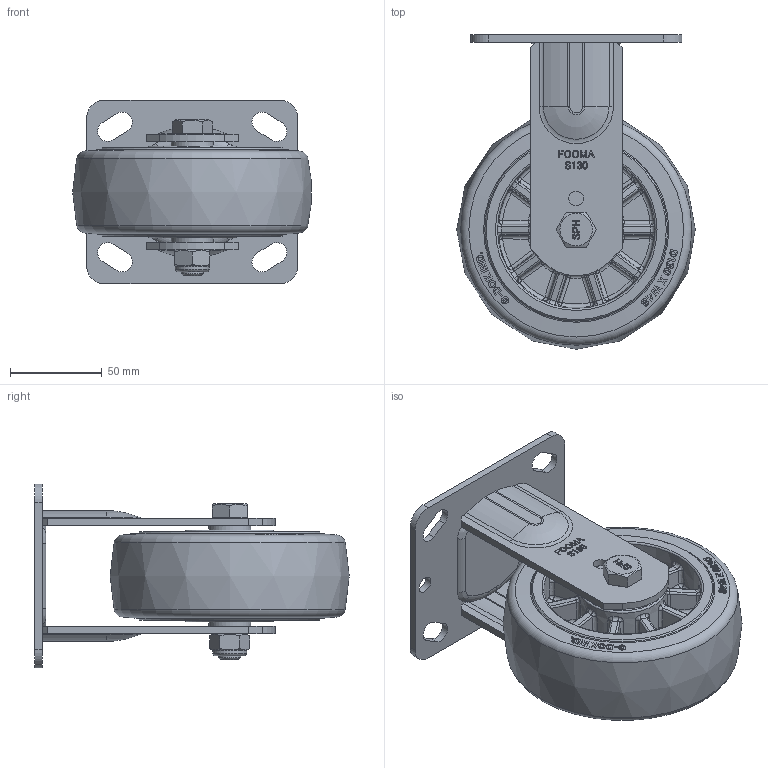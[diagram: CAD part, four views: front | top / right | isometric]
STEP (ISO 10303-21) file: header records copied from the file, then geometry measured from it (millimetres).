
FILE_DESCRIPTION(/* description */ (''),/* implementation_level */ '2;1');
FILE_NAME(/* name */ '\\192.168.10.38\지덕공유\1.기술연구소\2.연구개발 진행중\124.SPH-Series_중하중_2025.02.11\1.도면\2. 3D\홈페이지용\SPH-130-ARF-TUD&HRD.stp',/* time_stamp */ '2026-05-19T07:47:42+09:00',/* author */ ('admin'),/* organization */ ('지덕산업'),/* preprocessor_version */ 'ST-DEVELOPER v18.1',/* originating_system */ 'Autodesk Inventor 2021',/* authorisation */ '');
FILE_SCHEMA (('AUTOMOTIVE_DESIGN { 1 0 10303 214 3 1 1 }'));
Products named in the file (1): SPH-130-ARF-TUD&HRD
Bounding box: 129.76 x 171 x 100 mm (x, y, z)
Volume: 590247.5 mm3; surface area: 110716 mm2
Topology: 1 solids, 1 shells, 1532 faces, 3877 edges, 2441 vertices
Faces by surface type: bspline 617, plane 574, cylinder 133, sphere 84, torus 66, cone 58
Full cylindrical faces by diameter (mm): 8 x2, 9 x2, 12 x1, 18 x1, 18.5 x1
Entity records: 56520 total; most frequent: CARTESIAN_POINT 24713, ORIENTED_EDGE 7754, DIRECTION 4749, EDGE_CURVE 3877, VERTEX_POINT 2441, EDGE_LOOP 1644, AXIS2_PLACEMENT_3D 1606, LINE 1537
